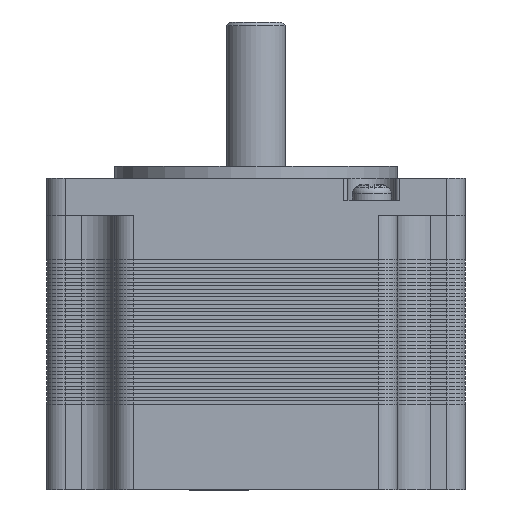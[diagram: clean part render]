
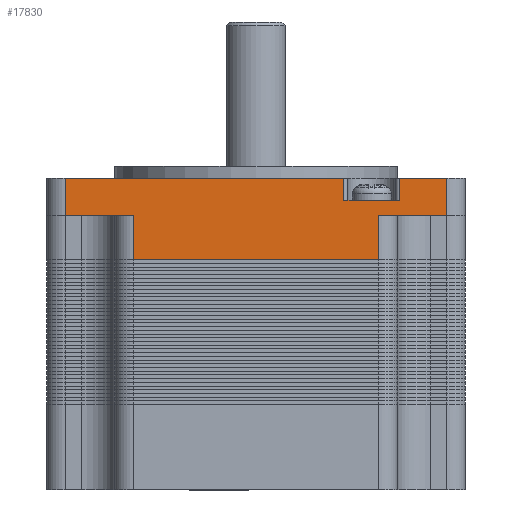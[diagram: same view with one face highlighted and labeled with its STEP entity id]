
A CAD part, front view. The second image highlights one B-rep face of the part: STEP entity #17830.
In plain terms, the highlighted planar face has unit normal (0, -1, 0).
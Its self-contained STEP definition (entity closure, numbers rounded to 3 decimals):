
#542 = CARTESIAN_POINT ( 'NONE',  ( 41.64, 14.435, 36.206 ) ) ;
#1003 = EDGE_CURVE ( 'NONE', #20269, #1362, #2311, .T. ) ;
#1024 = ORIENTED_EDGE ( 'NONE', *, *, #20463, .T. ) ;
#1034 = CARTESIAN_POINT ( 'NONE',  ( 46.301, 14.435, 28.206 ) ) ;
#1362 = VERTEX_POINT ( 'NONE', #29203 ) ;
#2139 = EDGE_LOOP ( 'NONE', ( #42010, #11198, #21485, #30077, #37020, #38679, #1024, #37750, #22737, #19917, #12070, #24712 ) ) ;
#2311 = LINE ( 'NONE', #4152, #11059 ) ;
#3014 = PLANE ( 'NONE',  #33774 ) ;
#4152 = CARTESIAN_POINT ( 'NONE',  ( 55.501, 14.435, 39.206 ) ) ;
#4385 = CARTESIAN_POINT ( 'NONE',  ( 4.101, 14.435, 39.206 ) ) ;
#4401 = DIRECTION ( 'NONE',  ( 0., 0., -1. ) ) ;
#4618 = VERTEX_POINT ( 'NONE', #27561 ) ;
#4632 = CARTESIAN_POINT ( 'NONE',  ( 41.64, 14.435, 39.206 ) ) ;
#5558 = LINE ( 'NONE', #7462, #15346 ) ;
#6182 = DIRECTION ( 'NONE',  ( 1., 0., 0. ) ) ;
#6357 = DIRECTION ( 'NONE',  ( 0., 0., 1. ) ) ;
#6593 = CARTESIAN_POINT ( 'NONE',  ( 49.14, 14.435, 39.206 ) ) ;
#6833 = EDGE_CURVE ( 'NONE', #19338, #40111, #33578, .T. ) ;
#7334 = DIRECTION ( 'NONE',  ( 0., 0., -1. ) ) ;
#7462 = CARTESIAN_POINT ( 'NONE',  ( 4.101, 14.435, 34.206 ) ) ;
#7610 = CARTESIAN_POINT ( 'NONE',  ( 13.301, 14.435, 28.206 ) ) ;
#9044 = EDGE_CURVE ( 'NONE', #39034, #28149, #28749, .T. ) ;
#9474 = CARTESIAN_POINT ( 'NONE',  ( 4.101, 14.435, 39.206 ) ) ;
#10589 = VECTOR ( 'NONE', #20696, 1000. ) ;
#10604 = EDGE_CURVE ( 'NONE', #28149, #25178, #22950, .T. ) ;
#11059 = VECTOR ( 'NONE', #7334, 1000. ) ;
#11198 = ORIENTED_EDGE ( 'NONE', *, *, #42373, .F. ) ;
#11821 = LINE ( 'NONE', #34165, #28335 ) ;
#12070 = ORIENTED_EDGE ( 'NONE', *, *, #18064, .T. ) ;
#13921 = LINE ( 'NONE', #9474, #30434 ) ;
#14173 = VECTOR ( 'NONE', #26322, 1000. ) ;
#15346 = VECTOR ( 'NONE', #40288, 1000. ) ;
#16008 = VECTOR ( 'NONE', #4401, 1000. ) ;
#16057 = VECTOR ( 'NONE', #36815, 1000. ) ;
#16216 = LINE ( 'NONE', #20498, #32708 ) ;
#16523 = EDGE_CURVE ( 'NONE', #38959, #20269, #13921, .T. ) ;
#17830 = ADVANCED_FACE ( 'NONE', ( #22577 ), #3014, .F. ) ;
#18064 = EDGE_CURVE ( 'NONE', #40307, #1362, #5558, .T. ) ;
#19338 = VERTEX_POINT ( 'NONE', #31444 ) ;
#19604 = CARTESIAN_POINT ( 'NONE',  ( 41.64, 14.435, 36.206 ) ) ;
#19674 = LINE ( 'NONE', #19604, #29432 ) ;
#19917 = ORIENTED_EDGE ( 'NONE', *, *, #32886, .F. ) ;
#19949 = EDGE_CURVE ( 'NONE', #35583, #4618, #37878, .T. ) ;
#20269 = VERTEX_POINT ( 'NONE', #32603 ) ;
#20463 = EDGE_CURVE ( 'NONE', #4618, #39034, #16216, .T. ) ;
#20498 = CARTESIAN_POINT ( 'NONE',  ( 4.101, 14.435, 34.206 ) ) ;
#20546 = CARTESIAN_POINT ( 'NONE',  ( 13.301, 14.435, 34.206 ) ) ;
#20696 = DIRECTION ( 'NONE',  ( 0., 0., -1. ) ) ;
#21485 = ORIENTED_EDGE ( 'NONE', *, *, #6833, .F. ) ;
#22577 = FACE_OUTER_BOUND ( 'NONE', #2139, .T. ) ;
#22737 = ORIENTED_EDGE ( 'NONE', *, *, #10604, .T. ) ;
#22950 = LINE ( 'NONE', #40796, #14173 ) ;
#23830 = DIRECTION ( 'NONE',  ( 0., 0., -1. ) ) ;
#24712 = ORIENTED_EDGE ( 'NONE', *, *, #1003, .F. ) ;
#25178 = VERTEX_POINT ( 'NONE', #1034 ) ;
#26070 = DIRECTION ( 'NONE',  ( 0., 1., 0. ) ) ;
#26322 = DIRECTION ( 'NONE',  ( 1., 0., 0. ) ) ;
#26876 = CARTESIAN_POINT ( 'NONE',  ( 13.301, 14.435, 34.206 ) ) ;
#27561 = CARTESIAN_POINT ( 'NONE',  ( 4.101, 14.435, 34.206 ) ) ;
#27689 = DIRECTION ( 'NONE',  ( 1., 0., 0. ) ) ;
#28149 = VERTEX_POINT ( 'NONE', #7610 ) ;
#28335 = VECTOR ( 'NONE', #27689, 1000. ) ;
#28667 = CARTESIAN_POINT ( 'NONE',  ( 49.14, 14.435, 36.206 ) ) ;
#28749 = LINE ( 'NONE', #20546, #36442 ) ;
#29203 = CARTESIAN_POINT ( 'NONE',  ( 55.501, 14.435, 34.206 ) ) ;
#29432 = VECTOR ( 'NONE', #42592, 1000. ) ;
#30077 = ORIENTED_EDGE ( 'NONE', *, *, #32550, .T. ) ;
#30434 = VECTOR ( 'NONE', #6182, 1000. ) ;
#30810 = CARTESIAN_POINT ( 'NONE',  ( 46.301, 14.435, 34.206 ) ) ;
#31444 = CARTESIAN_POINT ( 'NONE',  ( 41.64, 14.435, 36.206 ) ) ;
#31551 = CARTESIAN_POINT ( 'NONE',  ( 4.101, 14.435, 39.206 ) ) ;
#32045 = VECTOR ( 'NONE', #38596, 1000. ) ;
#32550 = EDGE_CURVE ( 'NONE', #19338, #42187, #19674, .T. ) ;
#32603 = CARTESIAN_POINT ( 'NONE',  ( 55.501, 14.435, 39.206 ) ) ;
#32708 = VECTOR ( 'NONE', #40332, 1000. ) ;
#32835 = CARTESIAN_POINT ( 'NONE',  ( 49.14, 14.435, 36.206 ) ) ;
#32886 = EDGE_CURVE ( 'NONE', #40307, #25178, #34553, .T. ) ;
#33502 = EDGE_CURVE ( 'NONE', #35583, #42187, #11821, .T. ) ;
#33578 = LINE ( 'NONE', #542, #16057 ) ;
#33774 = AXIS2_PLACEMENT_3D ( 'NONE', #35848, #26070, #6357 ) ;
#34087 = LINE ( 'NONE', #28667, #32045 ) ;
#34165 = CARTESIAN_POINT ( 'NONE',  ( 4.101, 14.435, 39.206 ) ) ;
#34553 = LINE ( 'NONE', #40535, #16008 ) ;
#35583 = VERTEX_POINT ( 'NONE', #31551 ) ;
#35848 = CARTESIAN_POINT ( 'NONE',  ( 13.301, 14.435, 34.206 ) ) ;
#36442 = VECTOR ( 'NONE', #23830, 1000. ) ;
#36815 = DIRECTION ( 'NONE',  ( 1., 0., 0. ) ) ;
#37020 = ORIENTED_EDGE ( 'NONE', *, *, #33502, .F. ) ;
#37750 = ORIENTED_EDGE ( 'NONE', *, *, #9044, .T. ) ;
#37878 = LINE ( 'NONE', #4385, #10589 ) ;
#38596 = DIRECTION ( 'NONE',  ( 0., 0., 1. ) ) ;
#38679 = ORIENTED_EDGE ( 'NONE', *, *, #19949, .T. ) ;
#38959 = VERTEX_POINT ( 'NONE', #6593 ) ;
#39034 = VERTEX_POINT ( 'NONE', #26876 ) ;
#40111 = VERTEX_POINT ( 'NONE', #32835 ) ;
#40288 = DIRECTION ( 'NONE',  ( 1., 0., 0. ) ) ;
#40307 = VERTEX_POINT ( 'NONE', #30810 ) ;
#40332 = DIRECTION ( 'NONE',  ( 1., 0., 0. ) ) ;
#40535 = CARTESIAN_POINT ( 'NONE',  ( 46.301, 14.435, 34.206 ) ) ;
#40796 = CARTESIAN_POINT ( 'NONE',  ( 13.301, 14.435, 28.206 ) ) ;
#42010 = ORIENTED_EDGE ( 'NONE', *, *, #16523, .F. ) ;
#42187 = VERTEX_POINT ( 'NONE', #4632 ) ;
#42373 = EDGE_CURVE ( 'NONE', #40111, #38959, #34087, .T. ) ;
#42592 = DIRECTION ( 'NONE',  ( 0., 0., 1. ) ) ;
